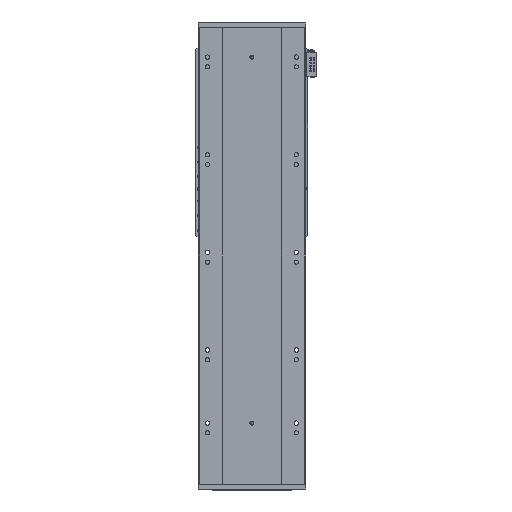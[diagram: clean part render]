
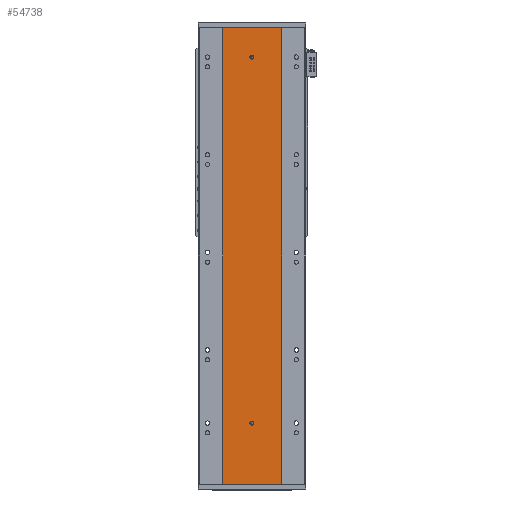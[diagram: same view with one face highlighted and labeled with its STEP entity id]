
A CAD part, front view. The second image highlights one B-rep face of the part: STEP entity #54738.
In plain terms, the highlighted planar face has unit normal (0, -1, 0).
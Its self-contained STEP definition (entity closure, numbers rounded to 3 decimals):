
#33 = FACE_BOUND ( 'NONE', #14990, .T. ) ;
#559 = EDGE_LOOP ( 'NONE', ( #36110, #52964, #43264, #49151 ) ) ;
#1042 = ORIENTED_EDGE ( 'NONE', *, *, #41209, .F. ) ;
#1424 = CARTESIAN_POINT ( 'NONE',  ( -60., 0., 0. ) ) ;
#3708 = DIRECTION ( 'NONE',  ( 0., 0., -1. ) ) ;
#4662 = VERTEX_POINT ( 'NONE', #56184 ) ;
#5671 = EDGE_CURVE ( 'NONE', #4662, #39194, #48719, .T. ) ;
#6139 = EDGE_CURVE ( 'NONE', #11350, #41539, #13010, .T. ) ;
#7383 = DIRECTION ( 'NONE',  ( 0., 0., -1. ) ) ;
#8029 = VECTOR ( 'NONE', #22586, 1000. ) ;
#8921 = EDGE_CURVE ( 'NONE', #56300, #39194, #55744, .T. ) ;
#9735 = CARTESIAN_POINT ( 'NONE',  ( -60., 0., 935. ) ) ;
#10792 = DIRECTION ( 'NONE',  ( 0., -1., 0. ) ) ;
#11350 = VERTEX_POINT ( 'NONE', #11850 ) ;
#11850 = CARTESIAN_POINT ( 'NONE',  ( 0., 0., 871. ) ) ;
#12179 = CARTESIAN_POINT ( 'NONE',  ( -60., 0., 935. ) ) ;
#13010 = CIRCLE ( 'NONE', #43778, 4. ) ;
#13242 = CIRCLE ( 'NONE', #33686, 4. ) ;
#13659 = DIRECTION ( 'NONE',  ( 0., 1., 0. ) ) ;
#13704 = CARTESIAN_POINT ( 'NONE',  ( 60., 0., 0. ) ) ;
#14042 = PLANE ( 'NONE',  #34455 ) ;
#14990 = EDGE_LOOP ( 'NONE', ( #47082, #1042 ) ) ;
#16228 = EDGE_CURVE ( 'NONE', #22425, #54569, #13242, .T. ) ;
#17678 = CIRCLE ( 'NONE', #57055, 4. ) ;
#20851 = CARTESIAN_POINT ( 'NONE',  ( 60., 0., 935. ) ) ;
#22370 = LINE ( 'NONE', #12179, #30807 ) ;
#22425 = VERTEX_POINT ( 'NONE', #53949 ) ;
#22454 = DIRECTION ( 'NONE',  ( 0., 0., 1. ) ) ;
#22586 = DIRECTION ( 'NONE',  ( 1., 0., 0. ) ) ;
#23489 = ORIENTED_EDGE ( 'NONE', *, *, #6139, .F. ) ;
#23669 = CARTESIAN_POINT ( 'NONE',  ( 0., 0., 125. ) ) ;
#23893 = FACE_BOUND ( 'NONE', #44259, .T. ) ;
#25901 = DIRECTION ( 'NONE',  ( 0., 0., -1. ) ) ;
#26473 = DIRECTION ( 'NONE',  ( 0., -1., 0. ) ) ;
#27451 = CIRCLE ( 'NONE', #39753, 4. ) ;
#27993 = DIRECTION ( 'NONE',  ( 0., 0., -1. ) ) ;
#28753 = DIRECTION ( 'NONE',  ( 0., -1., 0. ) ) ;
#28828 = DIRECTION ( 'NONE',  ( 1., 0., 0. ) ) ;
#30606 = VECTOR ( 'NONE', #7383, 1000. ) ;
#30807 = VECTOR ( 'NONE', #3708, 1000. ) ;
#31819 = LINE ( 'NONE', #37390, #8029 ) ;
#32959 = EDGE_CURVE ( 'NONE', #38365, #56300, #22370, .T. ) ;
#33686 = AXIS2_PLACEMENT_3D ( 'NONE', #23669, #50222, #27993 ) ;
#34455 = AXIS2_PLACEMENT_3D ( 'NONE', #9735, #13659, #22454 ) ;
#36110 = ORIENTED_EDGE ( 'NONE', *, *, #8921, .T. ) ;
#37390 = CARTESIAN_POINT ( 'NONE',  ( -60., 0., 935. ) ) ;
#37502 = CARTESIAN_POINT ( 'NONE',  ( 0., 0., 875. ) ) ;
#37917 = EDGE_CURVE ( 'NONE', #41539, #11350, #27451, .T. ) ;
#38240 = CARTESIAN_POINT ( 'NONE',  ( 0., 0., 875. ) ) ;
#38365 = VERTEX_POINT ( 'NONE', #47583 ) ;
#39194 = VERTEX_POINT ( 'NONE', #13704 ) ;
#39753 = AXIS2_PLACEMENT_3D ( 'NONE', #38240, #28753, #56277 ) ;
#41209 = EDGE_CURVE ( 'NONE', #54569, #22425, #17678, .T. ) ;
#41539 = VERTEX_POINT ( 'NONE', #56311 ) ;
#41990 = DIRECTION ( 'NONE',  ( 0., 0., -1. ) ) ;
#43264 = ORIENTED_EDGE ( 'NONE', *, *, #53127, .F. ) ;
#43778 = AXIS2_PLACEMENT_3D ( 'NONE', #37502, #10792, #41990 ) ;
#43843 = VECTOR ( 'NONE', #28828, 1000. ) ;
#44259 = EDGE_LOOP ( 'NONE', ( #23489, #52259 ) ) ;
#47082 = ORIENTED_EDGE ( 'NONE', *, *, #16228, .F. ) ;
#47583 = CARTESIAN_POINT ( 'NONE',  ( -60., 0., 935. ) ) ;
#48036 = CARTESIAN_POINT ( 'NONE',  ( 0., 0., 129. ) ) ;
#48711 = CARTESIAN_POINT ( 'NONE',  ( 0., 0., 125. ) ) ;
#48719 = LINE ( 'NONE', #20851, #30606 ) ;
#49151 = ORIENTED_EDGE ( 'NONE', *, *, #32959, .T. ) ;
#50222 = DIRECTION ( 'NONE',  ( 0., -1., 0. ) ) ;
#51254 = CARTESIAN_POINT ( 'NONE',  ( -60., 0., 0. ) ) ;
#52259 = ORIENTED_EDGE ( 'NONE', *, *, #37917, .F. ) ;
#52964 = ORIENTED_EDGE ( 'NONE', *, *, #5671, .F. ) ;
#53127 = EDGE_CURVE ( 'NONE', #38365, #4662, #31819, .T. ) ;
#53949 = CARTESIAN_POINT ( 'NONE',  ( 0., 0., 121. ) ) ;
#54569 = VERTEX_POINT ( 'NONE', #48036 ) ;
#54738 = ADVANCED_FACE ( 'NONE', ( #23893, #33, #55361 ), #14042, .F. ) ;
#55361 = FACE_OUTER_BOUND ( 'NONE', #559, .T. ) ;
#55744 = LINE ( 'NONE', #51254, #43843 ) ;
#56184 = CARTESIAN_POINT ( 'NONE',  ( 60., 0., 935. ) ) ;
#56277 = DIRECTION ( 'NONE',  ( 0., 0., -1. ) ) ;
#56300 = VERTEX_POINT ( 'NONE', #1424 ) ;
#56311 = CARTESIAN_POINT ( 'NONE',  ( 0., 0., 879. ) ) ;
#57055 = AXIS2_PLACEMENT_3D ( 'NONE', #48711, #26473, #25901 ) ;
